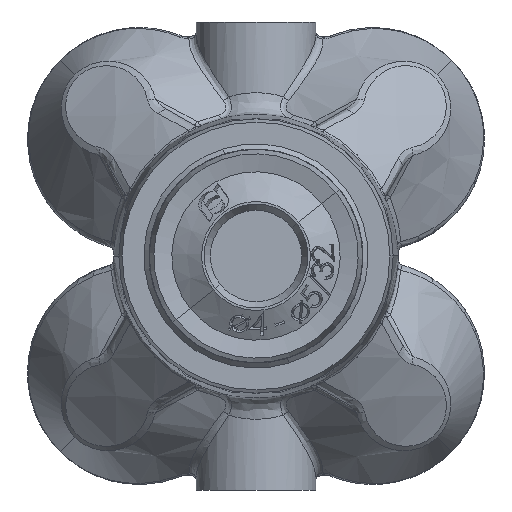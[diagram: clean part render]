
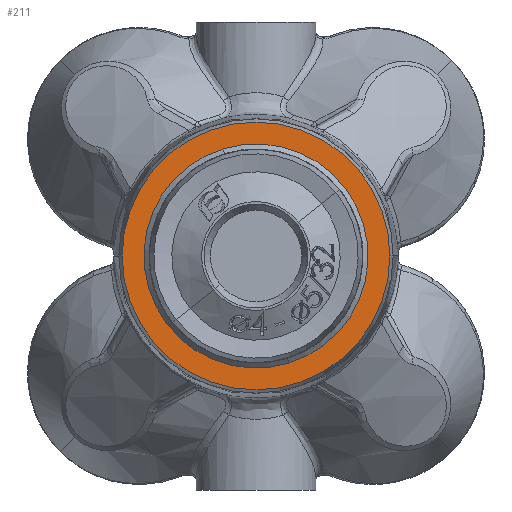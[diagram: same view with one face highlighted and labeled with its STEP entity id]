
A CAD part, front view. The second image highlights one B-rep face of the part: STEP entity #211.
In plain terms, the highlighted planar face has unit normal (0, -1, 0).
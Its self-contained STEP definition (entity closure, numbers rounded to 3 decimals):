
#211 = ADVANCED_FACE ( 'NONE', ( #57092, #57096 ), #59509, .T. ) ;
#4036 = CARTESIAN_POINT ( 'NONE',  ( 0., 0., 0. ) ) ;
#4037 = DIRECTION ( 'NONE',  ( 0., 1., 0. ) ) ;
#4038 = DIRECTION ( 'NONE',  ( 1., 0., 0. ) ) ;
#4039 = CARTESIAN_POINT ( 'NONE',  ( 0., 0., 0. ) ) ;
#4040 = DIRECTION ( 'NONE',  ( 0., 1., 0. ) ) ;
#4041 = DIRECTION ( 'NONE',  ( 1., 0., 0. ) ) ;
#4042 = CARTESIAN_POINT ( 'NONE',  ( 0., 0., 0. ) ) ;
#4043 = DIRECTION ( 'NONE',  ( 0., -1., 0. ) ) ;
#4044 = DIRECTION ( 'NONE',  ( 1., 0., 0. ) ) ;
#21293 = EDGE_LOOP ( 'NONE', ( #42227, #42228 ) ) ;
#42227 = ORIENTED_EDGE ( 'NONE', *, *, #80114, .T. ) ;
#42228 = ORIENTED_EDGE ( 'NONE', *, *, #80118, .T. ) ;
#42229 = ORIENTED_EDGE ( 'NONE', *, *, #80121, .T. ) ;
#42230 = ORIENTED_EDGE ( 'NONE', *, *, #62985, .T. ) ;
#43795 = VERTEX_POINT ( 'NONE', #67039 ) ;
#43806 = VERTEX_POINT ( 'NONE', #67060 ) ;
#44339 = VERTEX_POINT ( 'NONE', #68511 ) ;
#44341 = VERTEX_POINT ( 'NONE', #68512 ) ;
#44437 = EDGE_LOOP ( 'NONE', ( #42229, #42230 ) ) ;
#47009 = AXIS2_PLACEMENT_3D ( 'NONE', #73794, #73795, #73796 ) ;
#47097 = AXIS2_PLACEMENT_3D ( 'NONE', #4036, #4037, #4038 ) ;
#47098 = AXIS2_PLACEMENT_3D ( 'NONE', #4039, #4040, #4041 ) ;
#47099 = AXIS2_PLACEMENT_3D ( 'NONE', #4042, #4043, #4044 ) ;
#49347 = CIRCLE ( 'NONE', #47009, 6.15 ) ;
#49735 = CIRCLE ( 'NONE', #47097, 5.15 ) ;
#49737 = CIRCLE ( 'NONE', #47098, 5.15 ) ;
#49740 = CIRCLE ( 'NONE', #47099, 6.15 ) ;
#57092 = FACE_BOUND ( 'NONE', #21293, .T. ) ;
#57096 = FACE_OUTER_BOUND ( 'NONE', #44437, .T. ) ;
#59509 = PLANE ( 'NONE',  #60230 ) ;
#59516 = CARTESIAN_POINT ( 'NONE',  ( -5.481, 0., 0. ) ) ;
#59517 = DIRECTION ( 'NONE',  ( 0., -1., 0. ) ) ;
#59518 = DIRECTION ( 'NONE',  ( 1., 0., 0. ) ) ;
#60230 = AXIS2_PLACEMENT_3D ( 'NONE', #59516, #59517, #59518 ) ;
#62985 = EDGE_CURVE ( 'NONE', #43795, #43806, #49347, .T. ) ;
#67039 = CARTESIAN_POINT ( 'NONE',  ( 6.15, 0., 0. ) ) ;
#67060 = CARTESIAN_POINT ( 'NONE',  ( -6.15, 0., 0. ) ) ;
#68511 = CARTESIAN_POINT ( 'NONE',  ( -1.507, 0., 4.925 ) ) ;
#68512 = CARTESIAN_POINT ( 'NONE',  ( 1.507, 0., -4.925 ) ) ;
#73794 = CARTESIAN_POINT ( 'NONE',  ( 0., 0., 0. ) ) ;
#73795 = DIRECTION ( 'NONE',  ( 0., -1., 0. ) ) ;
#73796 = DIRECTION ( 'NONE',  ( 1., 0., 0. ) ) ;
#80114 = EDGE_CURVE ( 'NONE', #44341, #44339, #49735, .T. ) ;
#80118 = EDGE_CURVE ( 'NONE', #44339, #44341, #49737, .T. ) ;
#80121 = EDGE_CURVE ( 'NONE', #43806, #43795, #49740, .T. ) ;
